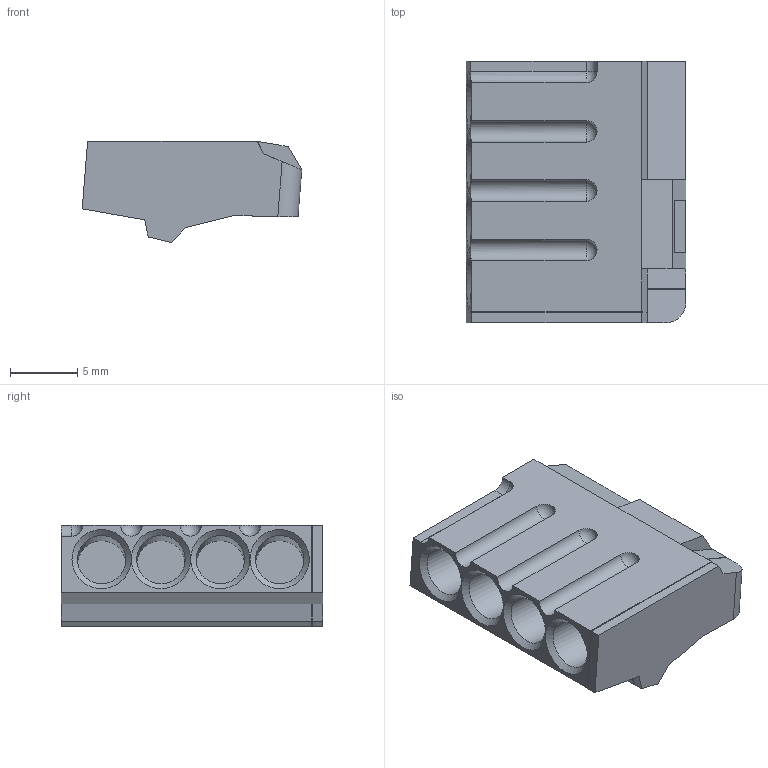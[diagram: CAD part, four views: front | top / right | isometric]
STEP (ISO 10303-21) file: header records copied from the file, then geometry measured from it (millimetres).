
FILE_DESCRIPTION(/* description */ ('Unknown'),/* implementation_level */ '2;1');
FILE_NAME(/* name */ 'ST 3504',/* time_stamp */ '2021-10-08T08:56:33+02:00',/* author */ ('Unknown'),/* organization */ ('Unknown'),/* preprocessor_version */ 'ST-DEVELOPER v16.7',/* originating_system */ 'Solid Edge',/* authorisation */ 'Unknown');
FILE_SCHEMA (('AUTOMOTIVE_DESIGN {1 0 10303 214 3 1 1}'));
Length unit declared in the file: millimetre
Products named in the file (1): ST 3504
Bounding box: 16.28 x 19.4 x 7.5 mm (x, y, z)
Volume: 1483.5 mm3; surface area: 1305.5 mm2
Topology: 1 solids, 1 shells, 75 faces, 193 edges, 111 vertices
Faces by surface type: plane 40, cylinder 23, sphere 7, cone 4, bspline 1
Full cylindrical faces by diameter (mm): 3.6 x4
Entity records: 2582 total; most frequent: CARTESIAN_POINT 361, DIRECTION 359, ORIENTED_EDGE 328, EDGE_CURVE 164, AXIS2_PLACEMENT_3D 123, LINE 113, VECTOR 113, VERTEX_POINT 100
